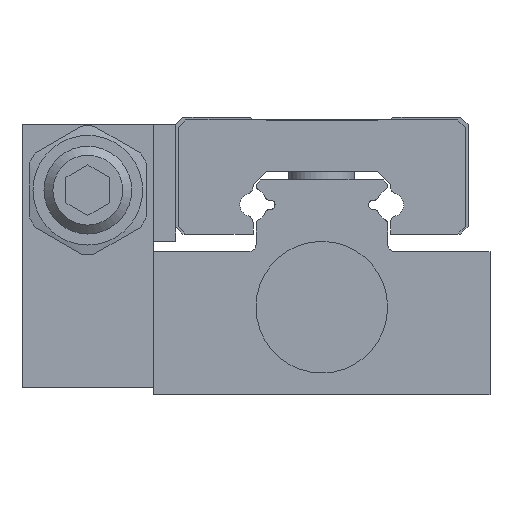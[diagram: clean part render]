
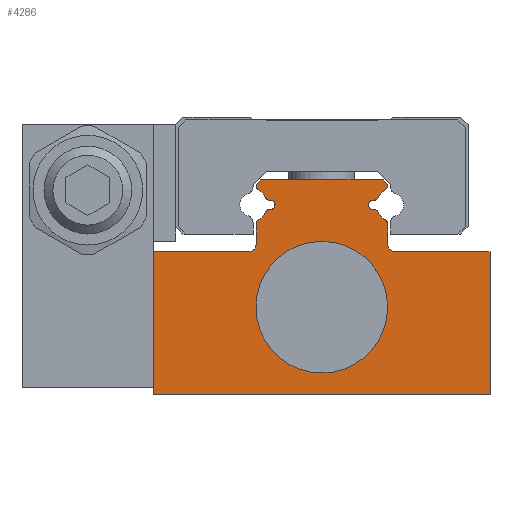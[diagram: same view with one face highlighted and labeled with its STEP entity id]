
A CAD part, front view. The second image highlights one B-rep face of the part: STEP entity #4286.
In plain terms, the highlighted planar face has unit normal (0, -1, 0).
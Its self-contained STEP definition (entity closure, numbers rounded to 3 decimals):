
#93=PLANE('',#4696);
#277=LINE('',#6582,#638);
#285=LINE('',#6609,#646);
#297=LINE('',#6646,#658);
#304=LINE('',#6660,#665);
#306=LINE('',#6668,#667);
#316=LINE('',#6716,#677);
#319=LINE('',#6722,#680);
#321=LINE('',#6725,#682);
#324=LINE('',#6731,#685);
#334=LINE('',#6779,#695);
#340=LINE('',#6797,#701);
#343=LINE('',#6811,#704);
#638=VECTOR('',#5180,1000.);
#646=VECTOR('',#5200,1000.);
#658=VECTOR('',#5226,1000.);
#665=VECTOR('',#5239,1000.);
#667=VECTOR('',#5249,1000.);
#677=VECTOR('',#5303,1000.);
#680=VECTOR('',#5308,1000.);
#682=VECTOR('',#5312,1000.);
#685=VECTOR('',#5317,1000.);
#695=VECTOR('',#5371,1000.);
#701=VECTOR('',#5389,1000.);
#704=VECTOR('',#5402,1000.);
#1230=ORIENTED_EDGE('',*,*,#2330,.T.);
#1231=ORIENTED_EDGE('',*,*,#2241,.F.);
#1232=ORIENTED_EDGE('',*,*,#2223,.F.);
#1233=ORIENTED_EDGE('',*,*,#2327,.F.);
#1234=ORIENTED_EDGE('',*,*,#2320,.F.);
#1235=ORIENTED_EDGE('',*,*,#2313,.T.);
#1236=ORIENTED_EDGE('',*,*,#2310,.F.);
#1237=ORIENTED_EDGE('',*,*,#2307,.F.);
#1238=ORIENTED_EDGE('',*,*,#2304,.T.);
#1239=ORIENTED_EDGE('',*,*,#2301,.F.);
#1240=ORIENTED_EDGE('',*,*,#2298,.T.);
#1241=ORIENTED_EDGE('',*,*,#2295,.F.);
#1242=ORIENTED_EDGE('',*,*,#2292,.T.);
#1243=ORIENTED_EDGE('',*,*,#2289,.F.);
#1244=ORIENTED_EDGE('',*,*,#2286,.F.);
#1245=ORIENTED_EDGE('',*,*,#2283,.F.);
#1246=ORIENTED_EDGE('',*,*,#2210,.F.);
#1247=ORIENTED_EDGE('',*,*,#2281,.F.);
#1248=ORIENTED_EDGE('',*,*,#2278,.F.);
#1249=ORIENTED_EDGE('',*,*,#2275,.F.);
#1250=ORIENTED_EDGE('',*,*,#2272,.T.);
#1251=ORIENTED_EDGE('',*,*,#2269,.F.);
#1252=ORIENTED_EDGE('',*,*,#2266,.T.);
#1253=ORIENTED_EDGE('',*,*,#2263,.F.);
#1254=ORIENTED_EDGE('',*,*,#2260,.T.);
#1255=ORIENTED_EDGE('',*,*,#2257,.F.);
#1256=ORIENTED_EDGE('',*,*,#2254,.F.);
#1257=ORIENTED_EDGE('',*,*,#2251,.T.);
#1258=ORIENTED_EDGE('',*,*,#2250,.F.);
#2210=EDGE_CURVE('',#2785,#2786,#277,.T.);
#2223=EDGE_CURVE('',#2798,#2799,#285,.T.);
#2241=EDGE_CURVE('',#2799,#2811,#297,.T.);
#2250=EDGE_CURVE('',#2811,#2817,#304,.T.);
#2251=EDGE_CURVE('',#2820,#2817,#3190,.T.);
#2254=EDGE_CURVE('',#2820,#2822,#306,.T.);
#2257=EDGE_CURVE('',#2822,#2824,#3192,.T.);
#2260=EDGE_CURVE('',#2826,#2824,#3194,.T.);
#2263=EDGE_CURVE('',#2826,#2828,#3196,.T.);
#2266=EDGE_CURVE('',#2830,#2828,#3198,.T.);
#2269=EDGE_CURVE('',#2830,#2832,#3200,.T.);
#2272=EDGE_CURVE('',#2834,#2832,#3202,.T.);
#2275=EDGE_CURVE('',#2834,#2836,#3204,.T.);
#2278=EDGE_CURVE('',#2836,#2838,#316,.T.);
#2281=EDGE_CURVE('',#2838,#2785,#319,.T.);
#2283=EDGE_CURVE('',#2786,#2840,#321,.T.);
#2286=EDGE_CURVE('',#2840,#2842,#324,.T.);
#2289=EDGE_CURVE('',#2842,#2844,#3206,.T.);
#2292=EDGE_CURVE('',#2846,#2844,#3208,.T.);
#2295=EDGE_CURVE('',#2846,#2848,#3210,.T.);
#2298=EDGE_CURVE('',#2850,#2848,#3212,.T.);
#2301=EDGE_CURVE('',#2850,#2852,#3214,.T.);
#2304=EDGE_CURVE('',#2854,#2852,#3216,.T.);
#2307=EDGE_CURVE('',#2854,#2856,#3218,.T.);
#2310=EDGE_CURVE('',#2856,#2858,#334,.T.);
#2313=EDGE_CURVE('',#2860,#2858,#3220,.T.);
#2320=EDGE_CURVE('',#2860,#2864,#340,.T.);
#2327=EDGE_CURVE('',#2864,#2798,#343,.T.);
#2330=EDGE_CURVE('',#2871,#2871,#3229,.T.);
#2785=VERTEX_POINT('',#6583);
#2786=VERTEX_POINT('',#6584);
#2798=VERTEX_POINT('',#6610);
#2799=VERTEX_POINT('',#6611);
#2811=VERTEX_POINT('',#6636);
#2817=VERTEX_POINT('',#6650);
#2820=VERTEX_POINT('',#6663);
#2822=VERTEX_POINT('',#6669);
#2824=VERTEX_POINT('',#6675);
#2826=VERTEX_POINT('',#6681);
#2828=VERTEX_POINT('',#6687);
#2830=VERTEX_POINT('',#6693);
#2832=VERTEX_POINT('',#6699);
#2834=VERTEX_POINT('',#6705);
#2836=VERTEX_POINT('',#6711);
#2838=VERTEX_POINT('',#6717);
#2840=VERTEX_POINT('',#6726);
#2842=VERTEX_POINT('',#6732);
#2844=VERTEX_POINT('',#6738);
#2846=VERTEX_POINT('',#6744);
#2848=VERTEX_POINT('',#6750);
#2850=VERTEX_POINT('',#6756);
#2852=VERTEX_POINT('',#6762);
#2854=VERTEX_POINT('',#6768);
#2856=VERTEX_POINT('',#6774);
#2858=VERTEX_POINT('',#6780);
#2860=VERTEX_POINT('',#6786);
#2864=VERTEX_POINT('',#6798);
#2871=VERTEX_POINT('',#6818);
#3190=CIRCLE('',#4633,0.5);
#3192=CIRCLE('',#4637,0.3);
#3194=CIRCLE('',#4640,1.1);
#3196=CIRCLE('',#4643,0.3);
#3198=CIRCLE('',#4646,0.32);
#3200=CIRCLE('',#4649,0.3);
#3202=CIRCLE('',#4652,1.1);
#3204=CIRCLE('',#4655,0.3);
#3206=CIRCLE('',#4662,0.3);
#3208=CIRCLE('',#4665,1.1);
#3210=CIRCLE('',#4668,0.3);
#3212=CIRCLE('',#4671,0.32);
#3214=CIRCLE('',#4674,0.3);
#3216=CIRCLE('',#4677,1.1);
#3218=CIRCLE('',#4680,0.3);
#3220=CIRCLE('',#4684,0.5);
#3229=CIRCLE('',#4697,4.5);
#3414=EDGE_LOOP('',(#1230));
#3415=EDGE_LOOP('',(#1231,#1232,#1233,#1234,#1235,#1236,#1237,#1238,#1239,
#1240,#1241,#1242,#1243,#1244,#1245,#1246,#1247,#1248,#1249,#1250,#1251,
#1252,#1253,#1254,#1255,#1256,#1257,#1258));
#3815=FACE_BOUND('',#3414,.T.);
#3816=FACE_BOUND('',#3415,.T.);
#4286=ADVANCED_FACE('',(#3815,#3816),#93,.F.);
#4633=AXIS2_PLACEMENT_3D('',#6662,#5242,#5243);
#4637=AXIS2_PLACEMENT_3D('',#6674,#5254,#5255);
#4640=AXIS2_PLACEMENT_3D('',#6680,#5261,#5262);
#4643=AXIS2_PLACEMENT_3D('',#6686,#5268,#5269);
#4646=AXIS2_PLACEMENT_3D('',#6692,#5275,#5276);
#4649=AXIS2_PLACEMENT_3D('',#6698,#5282,#5283);
#4652=AXIS2_PLACEMENT_3D('',#6704,#5289,#5290);
#4655=AXIS2_PLACEMENT_3D('',#6710,#5296,#5297);
#4662=AXIS2_PLACEMENT_3D('',#6737,#5322,#5323);
#4665=AXIS2_PLACEMENT_3D('',#6743,#5329,#5330);
#4668=AXIS2_PLACEMENT_3D('',#6749,#5336,#5337);
#4671=AXIS2_PLACEMENT_3D('',#6755,#5343,#5344);
#4674=AXIS2_PLACEMENT_3D('',#6761,#5350,#5351);
#4677=AXIS2_PLACEMENT_3D('',#6767,#5357,#5358);
#4680=AXIS2_PLACEMENT_3D('',#6773,#5364,#5365);
#4684=AXIS2_PLACEMENT_3D('',#6785,#5376,#5377);
#4696=AXIS2_PLACEMENT_3D('',#6816,#5408,#5409);
#4697=AXIS2_PLACEMENT_3D('',#6817,#5410,#5411);
#5180=DIRECTION('',(1.,0.,0.));
#5200=DIRECTION('',(-1.,0.,0.));
#5226=DIRECTION('',(0.,0.,1.));
#5239=DIRECTION('',(1.,0.,0.));
#5242=DIRECTION('',(0.,1.,0.));
#5243=DIRECTION('',(1.,0.,0.));
#5249=DIRECTION('',(0.,0.,1.));
#5254=DIRECTION('',(0.,1.,0.));
#5255=DIRECTION('',(1.,0.,0.));
#5261=DIRECTION('',(0.,1.,0.));
#5262=DIRECTION('',(1.,0.,0.));
#5268=DIRECTION('',(0.,1.,0.));
#5269=DIRECTION('',(1.,0.,0.));
#5275=DIRECTION('',(0.,1.,0.));
#5276=DIRECTION('',(1.,0.,0.));
#5282=DIRECTION('',(0.,1.,0.));
#5283=DIRECTION('',(1.,0.,0.));
#5289=DIRECTION('',(0.,1.,0.));
#5290=DIRECTION('',(1.,0.,0.));
#5296=DIRECTION('',(0.,1.,0.));
#5297=DIRECTION('',(1.,0.,0.));
#5303=DIRECTION('',(0.,0.,1.));
#5308=DIRECTION('',(0.707,0.,0.707));
#5312=DIRECTION('',(0.707,0.,-0.707));
#5317=DIRECTION('',(0.,0.,-1.));
#5322=DIRECTION('',(0.,1.,0.));
#5323=DIRECTION('',(1.,0.,0.));
#5329=DIRECTION('',(0.,1.,0.));
#5330=DIRECTION('',(1.,0.,0.));
#5336=DIRECTION('',(0.,1.,0.));
#5337=DIRECTION('',(1.,0.,0.));
#5343=DIRECTION('',(0.,1.,0.));
#5344=DIRECTION('',(1.,0.,0.));
#5350=DIRECTION('',(0.,1.,0.));
#5351=DIRECTION('',(1.,0.,0.));
#5357=DIRECTION('',(0.,1.,0.));
#5358=DIRECTION('',(1.,0.,0.));
#5364=DIRECTION('',(0.,1.,0.));
#5365=DIRECTION('',(1.,0.,0.));
#5371=DIRECTION('',(0.,0.,-1.));
#5376=DIRECTION('',(0.,1.,0.));
#5377=DIRECTION('',(1.,0.,0.));
#5389=DIRECTION('',(1.,0.,0.));
#5402=DIRECTION('',(0.,0.,-1.));
#5408=DIRECTION('',(0.,1.,0.));
#5409=DIRECTION('',(0.,0.,1.));
#5410=DIRECTION('',(0.,1.,0.));
#5411=DIRECTION('',(1.,0.,0.));
#6582=CARTESIAN_POINT('',(-4.2,0.,14.7));
#6583=CARTESIAN_POINT('',(-4.2,0.,14.7));
#6584=CARTESIAN_POINT('',(4.2,0.,14.7));
#6609=CARTESIAN_POINT('',(11.5,0.,0.));
#6610=CARTESIAN_POINT('',(11.5,0.,0.));
#6611=CARTESIAN_POINT('',(-11.5,0.,0.));
#6636=CARTESIAN_POINT('',(-11.5,0.,9.8));
#6646=CARTESIAN_POINT('',(-11.5,0.,0.));
#6650=CARTESIAN_POINT('',(-5.,0.,9.8));
#6660=CARTESIAN_POINT('',(-11.5,0.,9.8));
#6662=CARTESIAN_POINT('',(-5.,0.,10.3));
#6663=CARTESIAN_POINT('',(-4.5,0.,10.3));
#6668=CARTESIAN_POINT('',(-4.5,0.,10.3));
#6669=CARTESIAN_POINT('',(-4.5,0.,11.701));
#6674=CARTESIAN_POINT('',(-4.2,0.,11.701));
#6675=CARTESIAN_POINT('',(-4.344,0.,11.964));
#6680=CARTESIAN_POINT('',(-4.87,0.,12.93));
#6681=CARTESIAN_POINT('',(-3.857,0.,12.5));
#6686=CARTESIAN_POINT('',(-3.581,0.,12.383));
#6687=CARTESIAN_POINT('',(-3.552,0.,12.682));
#6692=CARTESIAN_POINT('',(-3.52,0.,13.));
#6693=CARTESIAN_POINT('',(-3.552,0.,13.318));
#6698=CARTESIAN_POINT('',(-3.581,0.,13.617));
#6699=CARTESIAN_POINT('',(-3.857,0.,13.5));
#6704=CARTESIAN_POINT('',(-4.87,0.,13.07));
#6705=CARTESIAN_POINT('',(-4.344,0.,14.036));
#6710=CARTESIAN_POINT('',(-4.2,0.,14.299));
#6711=CARTESIAN_POINT('',(-4.5,0.,14.299));
#6716=CARTESIAN_POINT('',(-4.5,0.,14.299));
#6717=CARTESIAN_POINT('',(-4.5,0.,14.4));
#6722=CARTESIAN_POINT('',(-4.5,0.,14.4));
#6725=CARTESIAN_POINT('',(4.2,0.,14.7));
#6726=CARTESIAN_POINT('',(4.5,0.,14.4));
#6731=CARTESIAN_POINT('',(4.5,0.,14.4));
#6732=CARTESIAN_POINT('',(4.5,0.,14.299));
#6737=CARTESIAN_POINT('',(4.2,0.,14.299));
#6738=CARTESIAN_POINT('',(4.344,0.,14.036));
#6743=CARTESIAN_POINT('',(4.87,0.,13.07));
#6744=CARTESIAN_POINT('',(3.857,0.,13.5));
#6749=CARTESIAN_POINT('',(3.581,0.,13.617));
#6750=CARTESIAN_POINT('',(3.552,0.,13.318));
#6755=CARTESIAN_POINT('',(3.52,0.,13.));
#6756=CARTESIAN_POINT('',(3.552,0.,12.682));
#6761=CARTESIAN_POINT('',(3.581,0.,12.383));
#6762=CARTESIAN_POINT('',(3.857,0.,12.5));
#6767=CARTESIAN_POINT('',(4.87,0.,12.93));
#6768=CARTESIAN_POINT('',(4.344,0.,11.964));
#6773=CARTESIAN_POINT('',(4.2,0.,11.701));
#6774=CARTESIAN_POINT('',(4.5,0.,11.701));
#6779=CARTESIAN_POINT('',(4.5,0.,11.701));
#6780=CARTESIAN_POINT('',(4.5,0.,10.3));
#6785=CARTESIAN_POINT('',(5.,0.,10.3));
#6786=CARTESIAN_POINT('',(5.,0.,9.8));
#6797=CARTESIAN_POINT('',(5.,0.,9.8));
#6798=CARTESIAN_POINT('',(11.5,0.,9.8));
#6811=CARTESIAN_POINT('',(11.5,0.,9.8));
#6816=CARTESIAN_POINT('',(-5.,0.,10.3));
#6817=CARTESIAN_POINT('',(0.,0.,6.));
#6818=CARTESIAN_POINT('',(4.5,0.,6.));
